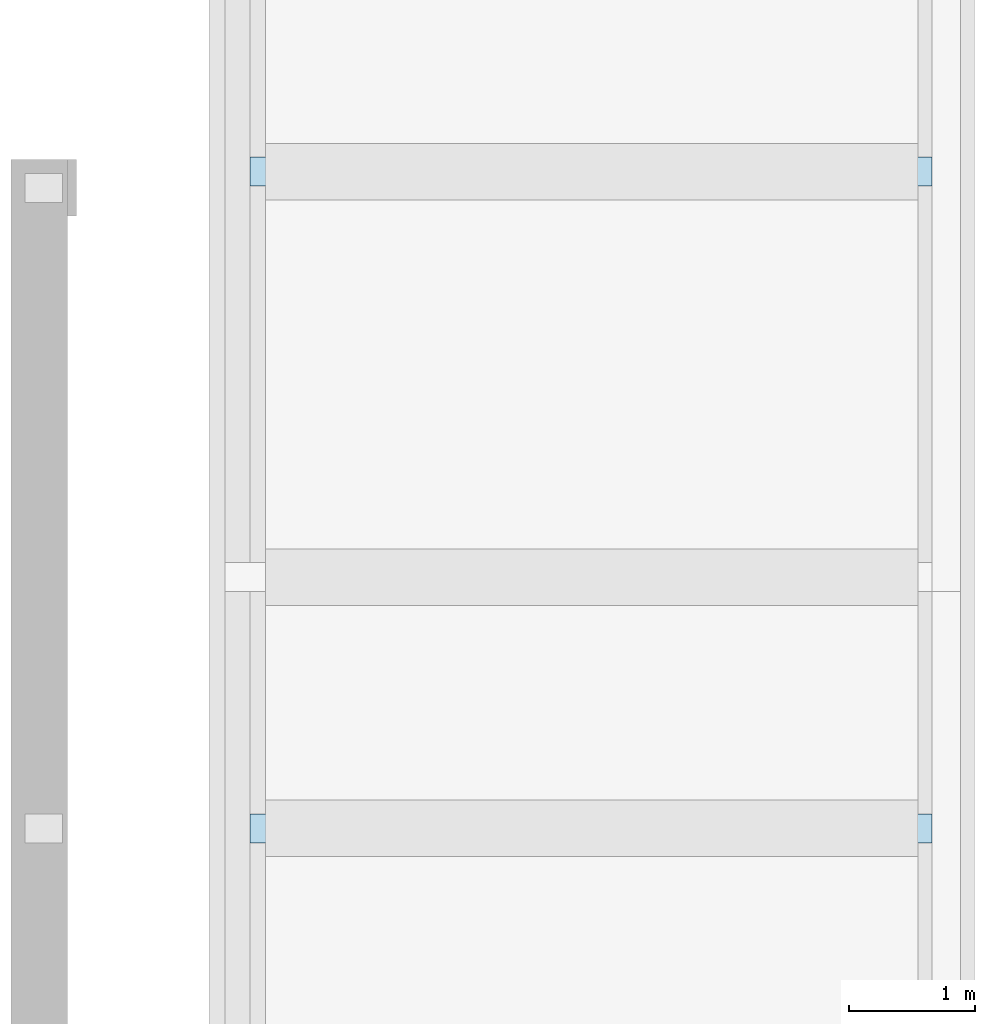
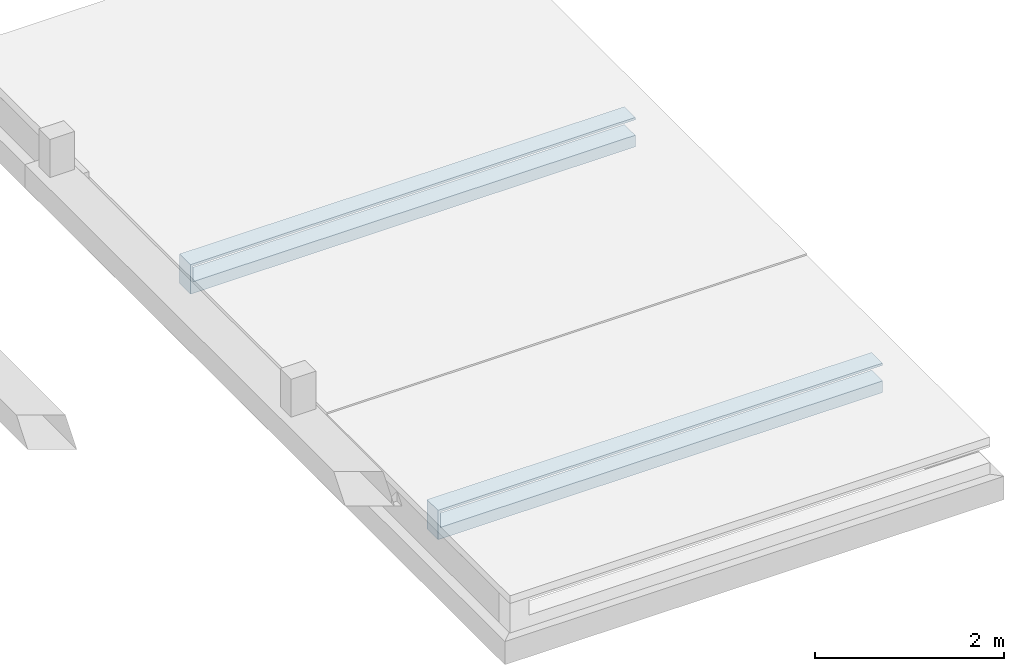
# One storey, part 2 of 2: 2 footings.
"""IFC2X3 building model written with IfcOpenShell, lengths in metres."""

from ifc_helpers import new_model, entity, si_unit, converted_unit, derived_unit, money_unit, direction, frame, origin_with_axes, place, context, subcontext, project, spatial, polyline, outline, extrude, boolean, faceted_brep, material, element, save


model = new_model("IFC2X3")

# Units and contexts
model_context = context("Model", 3, precision=1e-05, world=origin_with_axes(), true_north=direction((0.0, 1.0)))
body_context = subcontext(model_context, "Body", "Model", "MODEL_VIEW")
ifc_project = project(units=[si_unit("LENGTHUNIT", "METRE"), si_unit("AREAUNIT", "SQUARE_METRE"), si_unit("VOLUMEUNIT", "CUBIC_METRE"), converted_unit("PLANEANGLEUNIT", "DEGREE", entity("IfcPlaneAngleMeasure", 0.0174532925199), si_unit("PLANEANGLEUNIT", "RADIAN"), dimensions=[0, 0, 0, 0, 0, 0, 0]), si_unit("SOLIDANGLEUNIT", "STERADIAN"), money_unit("CHF"), converted_unit("TIMEUNIT", "Year", entity("IfcTimeMeasure", 31556926.0), si_unit("TIMEUNIT", "SECOND"), dimensions=[0, 0, 1, 0, 0, 0, 0]), si_unit("MASSUNIT", "GRAM", prefix="KILO"), si_unit("THERMODYNAMICTEMPERATUREUNIT", "DEGREE_CELSIUS"), si_unit("LUMINOUSINTENSITYUNIT", "LUMEN"), si_unit("ENERGYUNIT", "JOULE", prefix="MEGA"), derived_unit("THERMALCONDUCTANCEUNIT", [(si_unit("POWERUNIT", "WATT"), 1), (si_unit("LENGTHUNIT", "METRE"), -1), (si_unit("THERMODYNAMICTEMPERATUREUNIT", "KELVIN"), -1)]), derived_unit("SPECIFICHEATCAPACITYUNIT", [(si_unit("ENERGYUNIT", "JOULE"), 1), (si_unit("MASSUNIT", "GRAM", prefix="KILO"), -1), (si_unit("THERMODYNAMICTEMPERATUREUNIT", "KELVIN"), -1)]), derived_unit("MASSDENSITYUNIT", [(si_unit("MASSUNIT", "GRAM", prefix="KILO"), 1), (si_unit("VOLUMEUNIT", "CUBIC_METRE"), -1)])], contexts=[model_context])

# Site, building, storey
site_placement = place(None, origin_with_axes())
site = spatial("IfcSite", under=ifc_project, at=site_placement, Name="Site", CompositionType="ELEMENT")
building_placement = place(site_placement, origin_with_axes())
building = spatial("IfcBuilding", under=site, at=building_placement, Name="Bâtiment", CompositionType="ELEMENT")
storey_placement = place(building_placement, frame((0.0, 0.0, -2.8), z_axis=(0.0, 0.0, 1.0), x_axis=(1.0, 0.0, 0.0)))
storey = spatial("IfcBuildingStorey", under=building, at=storey_placement, Name="FONDATIONS", CompositionType="ELEMENT", Elevation=-2.8)

# Footings
ifc_material = material(Name="Hachure solide 2628782308")
for number, where, z_axis, x_axis, name in (
    (1, (89.1055190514, 9.27926660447, -0.49), (0.0, 0.0, 1.0), (1.0, 0.0, 0.0), "MurExt-002"),
    (2, (89.1055190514, 14.5103410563, -0.49), (0.0, 0.0, 1.0), (1.0, 0.0, 0.0), "MurExt-002"),
):
    element("IfcFooting", number, at=place(storey_placement, frame(where, z_axis=z_axis, x_axis=x_axis)), inside=storey, material=ifc_material, Name=name, PredefinedType="NOTDEFINED", context=body_context, shape_type="CSG", body=[
        boolean("DIFFERENCE", boolean("DIFFERENCE", extrude(outline(polyline([(0.0, -0.23), (5.86, -0.23), (5.86, 0.0), (0.0, 0.0), (0.0, -0.23)])), origin_with_axes(), (0.0, 0.0, 1.0), 0.38), faceted_brep([(0.2, -0.23, 0.38), (0.2, 0.0, 0.38), (0.0, 0.0, 0.38), (0.0, -0.23, 0.38), (0.2, 0.0, 0.0), (0.2, -0.23, 0.0), (0.0, 0.0, 0.0), (0.0, -0.23, 0.0)], [[[0, 1, 2, 3]], [[4, 1, 0, 5]], [[1, 4, 6, 2]], [[2, 6, 7, 3]], [[5, 0, 3, 7]], [[4, 5, 7, 6]]])), faceted_brep([(0.23, 0.0, 0.35), (5.63, 0.0, 0.35), (5.63, 0.0, 0.38), (5.86, 0.0, 0.38), (5.86, 0.0, 0.0), (5.63, 0.0, 0.0), (5.63, 0.0, 0.15), (0.23, 0.0, 0.15), (0.23, -0.23, 0.35), (5.63, -0.23, 0.35), (5.63, -0.23, 0.38), (5.86, -0.23, 0.38), (5.86, -0.23, 0.0), (5.63, -0.23, 0.0), (5.63, -0.23, 0.15), (0.23, -0.23, 0.15)], [[[0, 1, 2, 3, 4, 5, 6, 7]], [[1, 0, 8, 9]], [[10, 2, 1, 9]], [[2, 10, 11, 3]], [[11, 12, 4, 3]], [[13, 5, 4, 12]], [[6, 5, 13, 14]], [[7, 6, 14, 15]], [[0, 7, 15, 8]], [[14, 13, 12, 11, 10, 9, 8, 15]]])),
    ])

save(model, "model.ifc")
